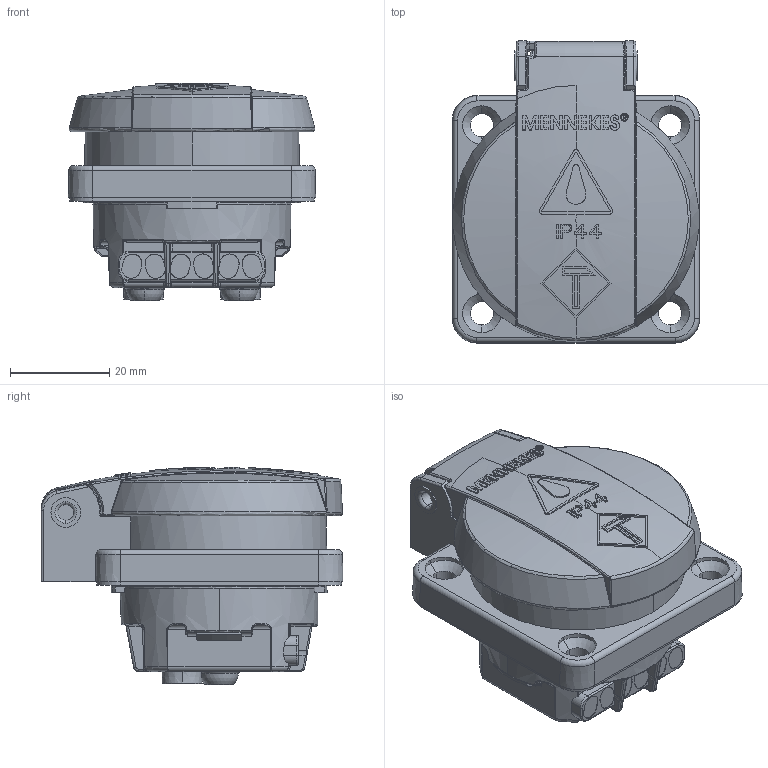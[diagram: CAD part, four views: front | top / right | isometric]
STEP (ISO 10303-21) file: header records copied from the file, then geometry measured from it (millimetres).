
FILE_DESCRIPTION((''),'2;1');
FILE_NAME('10121','2026-01-22T13:56:23',('peters001'),('MENNEKES'),'CREO PARAMETRIC BY PTC INC, 2024153','CREO PARAMETRIC BY PTC INC, 2024153','');
FILE_SCHEMA(('AUTOMOTIVE_DESIGN { 1 0 10303 214 1 1 1 1 }'));
Products named in the file (1): 10121
Bounding box: 50 x 61 x 44.03 mm (x, y, z)
Volume: 66120.3 mm3; surface area: 14578.1 mm2
Topology: 1 solids, 1 shells, 960 faces, 2460 edges, 1536 vertices
Faces by surface type: plane 361, cylinder 200, bspline 148, torus 79, extrusion 71, sphere 54, cone 47
Entity records: 51685 total; most frequent: CARTESIAN_POINT 14819, ORIENTED_EDGE 4916, DIRECTION 4322, PRESENTATION_STYLE_ASSIGNMENT 3490, STYLED_ITEM 2530, CURVE_STYLE 2529, EDGE_CURVE 2458, AXIS2_PLACEMENT_3D 1701
